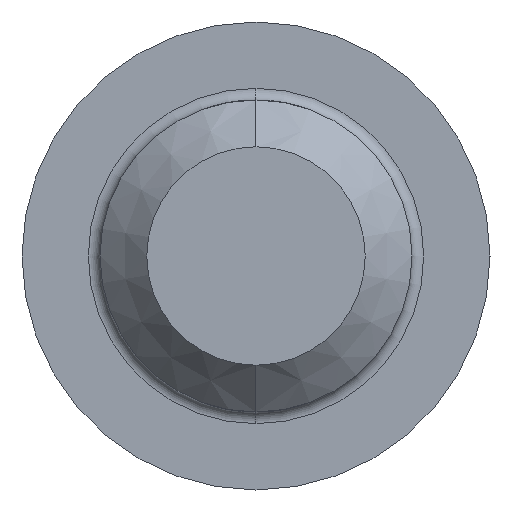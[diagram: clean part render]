
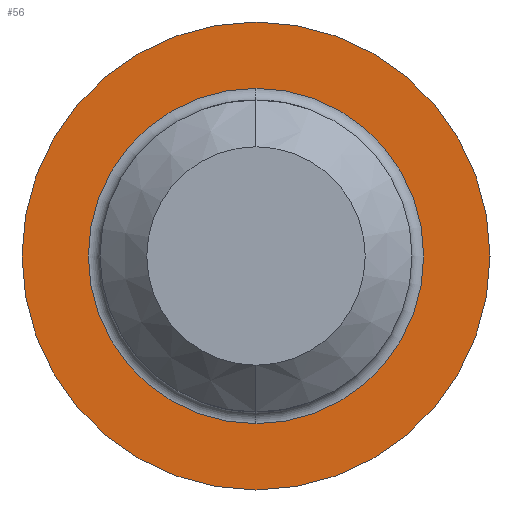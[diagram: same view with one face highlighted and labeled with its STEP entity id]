
A CAD part, left-side view. The second image highlights one B-rep face of the part: STEP entity #56.
In plain terms, the highlighted planar face has unit normal (-1, 0, 0).
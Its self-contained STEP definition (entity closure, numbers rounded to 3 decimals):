
#30 = EDGE_CURVE ( 'NONE', #80, #61, #317, .T. ) ;
#31 = ORIENTED_EDGE ( 'NONE', *, *, #30, .T. ) ;
#33 = EDGE_LOOP ( 'NONE', ( #46, #31 ) ) ;
#42 = EDGE_CURVE ( 'NONE', #120, #121, #226, .T. ) ;
#43 = ORIENTED_EDGE ( 'NONE', *, *, #137, .T. ) ;
#46 = ORIENTED_EDGE ( 'NONE', *, *, #63, .T. ) ;
#56 = ADVANCED_FACE ( 'NONE', ( #220, #204 ), #218, .F. ) ;
#61 = VERTEX_POINT ( 'NONE', #193 ) ;
#63 = EDGE_CURVE ( 'NONE', #61, #80, #266, .T. ) ;
#80 = VERTEX_POINT ( 'NONE', #243 ) ;
#81 = ORIENTED_EDGE ( 'NONE', *, *, #42, .T. ) ;
#82 = EDGE_LOOP ( 'NONE', ( #81, #43 ) ) ;
#120 = VERTEX_POINT ( 'NONE', #420 ) ;
#121 = VERTEX_POINT ( 'NONE', #399 ) ;
#137 = EDGE_CURVE ( 'NONE', #121, #120, #435, .T. ) ;
#182 = DIRECTION ( 'NONE',  ( 0., 0., -1. ) ) ;
#183 = DIRECTION ( 'NONE',  ( 1., 0., 0. ) ) ;
#188 = AXIS2_PLACEMENT_3D ( 'NONE', #200, #183, #182 ) ;
#193 = CARTESIAN_POINT ( 'NONE',  ( 0., 0., 6. ) ) ;
#200 = CARTESIAN_POINT ( 'NONE',  ( 0., 6., 0. ) ) ;
#204 = FACE_OUTER_BOUND ( 'NONE', #33, .T. ) ;
#207 = DIRECTION ( 'NONE',  ( 0., 0., -1. ) ) ;
#208 = DIRECTION ( 'NONE',  ( 1., 0., 0. ) ) ;
#209 = CARTESIAN_POINT ( 'NONE',  ( 0., 0., 0. ) ) ;
#218 = PLANE ( 'NONE',  #188 ) ;
#219 = AXIS2_PLACEMENT_3D ( 'NONE', #209, #208, #207 ) ;
#220 = FACE_BOUND ( 'NONE', #82, .T. ) ;
#226 = CIRCLE ( 'NONE', #219, 4.3 ) ;
#229 = DIRECTION ( 'NONE',  ( 0., 0., 1. ) ) ;
#230 = DIRECTION ( 'NONE',  ( -1., 0., 0. ) ) ;
#243 = CARTESIAN_POINT ( 'NONE',  ( 0., 0., -6. ) ) ;
#262 = DIRECTION ( 'NONE',  ( 0., 0., 1. ) ) ;
#263 = DIRECTION ( 'NONE',  ( -1., 0., 0. ) ) ;
#264 = CARTESIAN_POINT ( 'NONE',  ( 0., 0., 0. ) ) ;
#265 = AXIS2_PLACEMENT_3D ( 'NONE', #264, #263, #262 ) ;
#266 = CIRCLE ( 'NONE', #265, 6. ) ;
#308 = AXIS2_PLACEMENT_3D ( 'NONE', #312, #230, #229 ) ;
#312 = CARTESIAN_POINT ( 'NONE',  ( 0., 0., 0. ) ) ;
#317 = CIRCLE ( 'NONE', #308, 6. ) ;
#399 = CARTESIAN_POINT ( 'NONE',  ( 0., 0., 4.3 ) ) ;
#420 = CARTESIAN_POINT ( 'NONE',  ( 0., 0., -4.3 ) ) ;
#430 = DIRECTION ( 'NONE',  ( 0., 0., -1. ) ) ;
#431 = DIRECTION ( 'NONE',  ( 1., 0., 0. ) ) ;
#432 = CARTESIAN_POINT ( 'NONE',  ( 0., 0., 0. ) ) ;
#433 = AXIS2_PLACEMENT_3D ( 'NONE', #432, #431, #430 ) ;
#435 = CIRCLE ( 'NONE', #433, 4.3 ) ;
